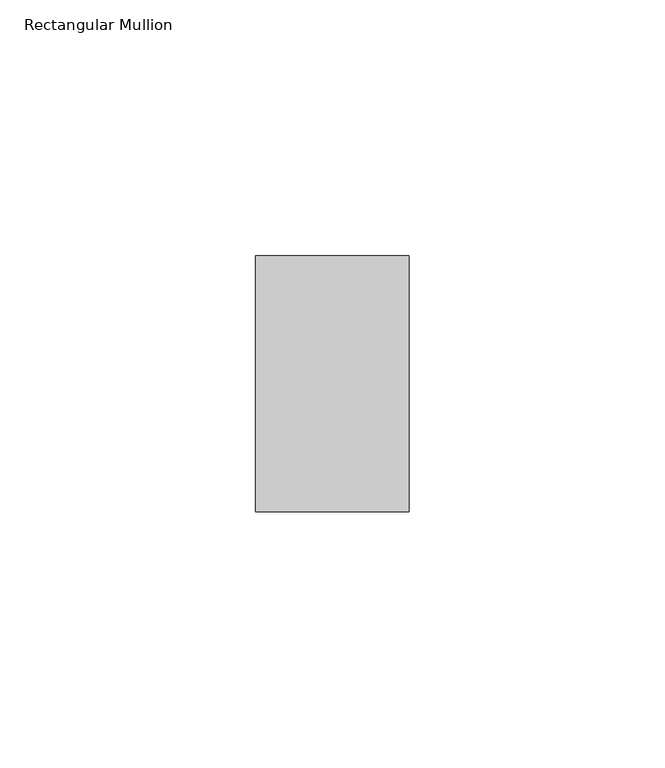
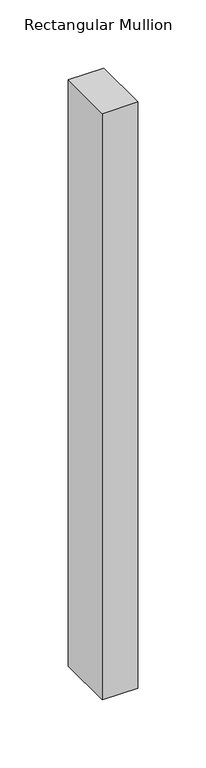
"""IFC4 building model written with IfcOpenShell, lengths in millimetres: member geometry, Rectangular Mullion : ARQ_TV_MULL_50x30mm."""

from ifc_helpers import new_model, si_unit, frame, origin, place, context, project, spatial, polyline, outline, extrude, source, transform, mapped, element, save


def rectangular_mullion_62a8ddbd(model_context):
    return source(origin(), model_context, "Body", "SweptSolid", [
        extrude(outline(polyline([(0.0, 25.0), (0.0, -25.0), (-30.0, -25.0), (-30.0, 25.0), (0.0, 25.0)])), frame((0.0, 0.0, -525.0), z_axis=(0.0, 0.0, 1.0), x_axis=(1.0, 0.0, 0.0)), (0.0, 0.0, 1.0), 525.0),
    ])


if __name__ == "__main__":
    model = new_model("IFC4")
    model_context = context("Model", 3, world=origin())
    ifc_project = project(units=[si_unit("LENGTHUNIT", "METRE", prefix="MILLI")], contexts=[model_context])
    site = spatial("IfcSite", under=ifc_project)
    building = spatial("IfcBuilding", under=site)
    placement = place(None, origin())
    rectangular_mullion_shape = rectangular_mullion_62a8ddbd(model_context)
    element("IfcMember", 1, ObjectType="Rectangular Mullion : ARQ_TV_MULL_50x30mm", at=placement, inside=building, context=model_context, shape_type="MappedRepresentation", body=[
        mapped(rectangular_mullion_shape, transform((0.0, 0.0, 0.0), x_axis=(1.0, 0.0, 0.0), y_axis=(0.0, 1.0, 0.0), z_axis=(0.0, 0.0, 1.0))),
    ])
    save(model, "model.ifc")
